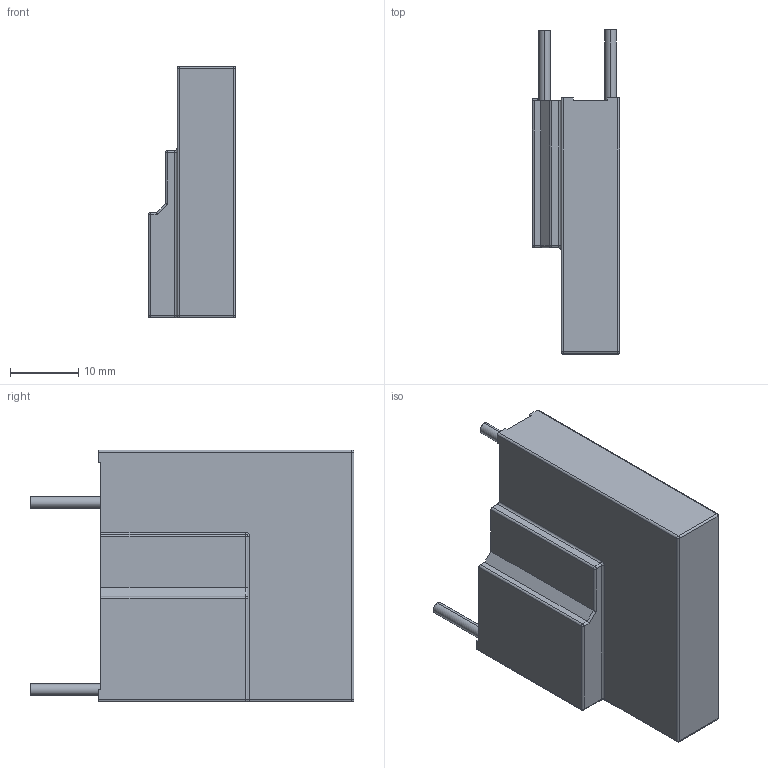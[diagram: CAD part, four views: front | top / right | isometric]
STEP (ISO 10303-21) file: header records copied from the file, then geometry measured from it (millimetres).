
FILE_DESCRIPTION((''),'2;1');
FILE_NAME('TFMOV34S','2020-07-15T13:26:31',('SET-00098'),(''),'CREO PARAMETRIC BY PTC INC, 2018400','CREO PARAMETRIC BY PTC INC, 2018400','');
FILE_SCHEMA(('CONFIG_CONTROL_DESIGN'));
Length unit declared in the file: millimetre
Products named in the file (1): TFMOV34S
Bounding box: 12.8 x 47.6 x 37 mm (x, y, z)
Volume: 13641.2 mm3; surface area: 4432.6 mm2
Topology: 1 solids, 1 shells, 66 faces, 159 edges, 97 vertices
Faces by surface type: plane 34, cylinder 23, sphere 7, torus 2
Entity records: 1939 total; most frequent: CARTESIAN_POINT 336, DIRECTION 333, ORIENTED_EDGE 318, EDGE_CURVE 159, VECTOR 113, LINE 113, AXIS2_PLACEMENT_3D 110, VERTEX_POINT 97
